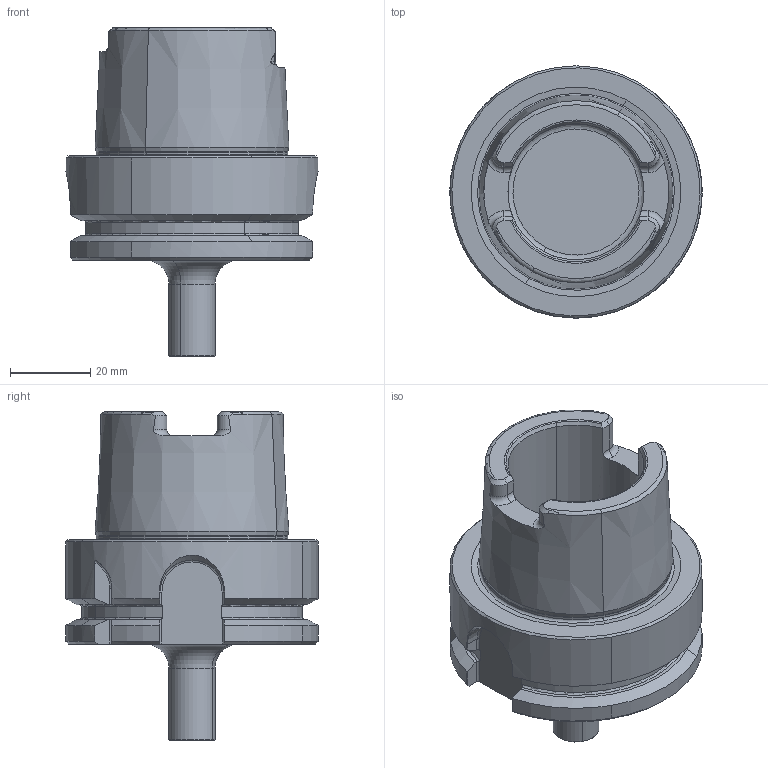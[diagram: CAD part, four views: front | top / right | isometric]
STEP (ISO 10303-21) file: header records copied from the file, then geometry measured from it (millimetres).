
FILE_DESCRIPTION(('CATIA V5 STEP','CAx-IF Rec.Pracs.--- Model Styling and Organization---1.2---2011-12-15'),'2;1');
FILE_NAME('I:\isr\design\admin8\users\wasweem_t\3106918 - L.stp','2014-05-22T13:01:52+00:00',('none'),('none'),'CATIA Version 5 Release 21 SP 5 (IN-10)','CATIA V5 STEP AP214','none');
FILE_SCHEMA(('AUTOMOTIVE_DESIGN { 1 0 10303 214 1 1 1 1 }'));
Length unit declared in the file: millimetre
Products named in the file (1): 620180204_0 Holder-Tool MM S-A-H050-HSK A63-T08
Bounding box: 63 x 63 x 82 mm (x, y, z)
Volume: 93432.5 mm3; surface area: 21707.4 mm2
Topology: 1 solids, 1 shells, 155 faces, 399 edges, 249 vertices
Faces by surface type: plane 45, cylinder 42, cone 35, torus 33
Entity records: 4682 total; most frequent: CARTESIAN_POINT 1348, ORIENTED_EDGE 798, DIRECTION 495, EDGE_CURVE 399, AXIS2_PLACEMENT_3D 270, VERTEX_POINT 249, CIRCLE 178, EDGE_LOOP 158
